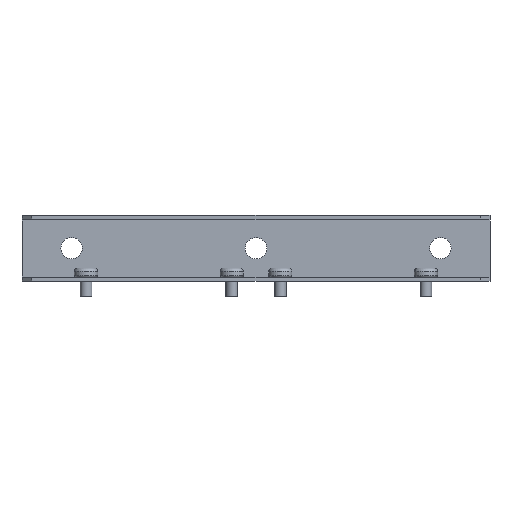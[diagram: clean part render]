
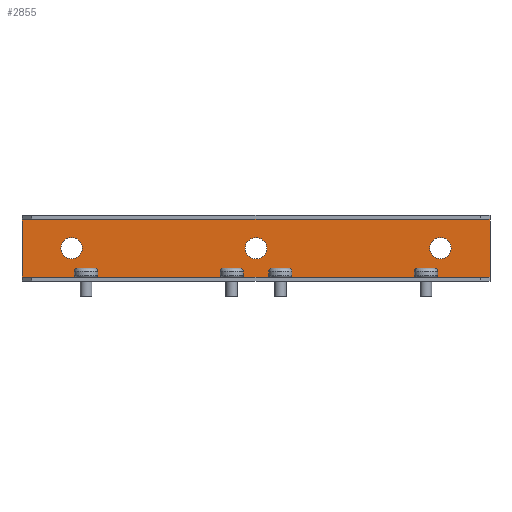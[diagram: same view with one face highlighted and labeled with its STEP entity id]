
A CAD part, left-side view. The second image highlights one B-rep face of the part: STEP entity #2855.
In plain terms, the highlighted planar face has unit normal (-1, 0, 0).
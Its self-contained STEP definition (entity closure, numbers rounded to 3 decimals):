
#3 = VECTOR ( 'NONE', #2722, 1000. ) ;
#6 = CIRCLE ( 'NONE', #1077, 5.5 ) ;
#136 = LINE ( 'NONE', #3295, #1947 ) ;
#137 = CARTESIAN_POINT ( 'NONE',  ( 13.5, -25., -5.5 ) ) ;
#220 = DIRECTION ( 'NONE',  ( 0., 0., 1. ) ) ;
#421 = EDGE_CURVE ( 'NONE', #1705, #2696, #2245, .T. ) ;
#466 = CARTESIAN_POINT ( 'NONE',  ( 13.5, -145.5, -15. ) ) ;
#486 = DIRECTION ( 'NONE',  ( 0., 0., -1. ) ) ;
#490 = ORIENTED_EDGE ( 'NONE', *, *, #3484, .T. ) ;
#492 = VECTOR ( 'NONE', #2016, 1000. ) ;
#498 = LINE ( 'NONE', #3642, #2316 ) ;
#513 = EDGE_LOOP ( 'NONE', ( #2091, #2648 ) ) ;
#523 = LINE ( 'NONE', #842, #492 ) ;
#557 = PLANE ( 'NONE',  #2733 ) ;
#594 = EDGE_CURVE ( 'NONE', #3029, #2981, #1835, .T. ) ;
#648 = ORIENTED_EDGE ( 'NONE', *, *, #737, .F. ) ;
#656 = DIRECTION ( 'NONE',  ( -1., 0., 0. ) ) ;
#737 = EDGE_CURVE ( 'NONE', #3029, #1766, #3282, .T. ) ;
#746 = CARTESIAN_POINT ( 'NONE',  ( 13.5, 70., -5.5 ) ) ;
#842 = CARTESIAN_POINT ( 'NONE',  ( 13.5, 0., 15. ) ) ;
#851 = EDGE_LOOP ( 'NONE', ( #1581, #1774 ) ) ;
#893 = DIRECTION ( 'NONE',  ( 0., 0., 1. ) ) ;
#944 = CIRCLE ( 'NONE', #2720, 5.5 ) ;
#950 = CARTESIAN_POINT ( 'NONE',  ( 13.5, 95.5, 14. ) ) ;
#1026 = ORIENTED_EDGE ( 'NONE', *, *, #1973, .F. ) ;
#1064 = VECTOR ( 'NONE', #1638, 1000. ) ;
#1077 = AXIS2_PLACEMENT_3D ( 'NONE', #2955, #1878, #220 ) ;
#1091 = EDGE_CURVE ( 'NONE', #1766, #2932, #136, .T. ) ;
#1093 = VECTOR ( 'NONE', #486, 1000. ) ;
#1114 = DIRECTION ( 'NONE',  ( 0., 0., -1. ) ) ;
#1119 = CARTESIAN_POINT ( 'NONE',  ( 13.5, -120., 0. ) ) ;
#1140 = AXIS2_PLACEMENT_3D ( 'NONE', #2289, #1988, #3629 ) ;
#1249 = ORIENTED_EDGE ( 'NONE', *, *, #1628, .F. ) ;
#1261 = EDGE_CURVE ( 'NONE', #3099, #2631, #3209, .T. ) ;
#1263 = CIRCLE ( 'NONE', #1140, 5.5 ) ;
#1274 = CARTESIAN_POINT ( 'NONE',  ( 13.5, -120., -5.5 ) ) ;
#1286 = DIRECTION ( 'NONE',  ( 0., 0., -1. ) ) ;
#1374 = LINE ( 'NONE', #3339, #1064 ) ;
#1437 = FACE_OUTER_BOUND ( 'NONE', #2901, .T. ) ;
#1562 = CARTESIAN_POINT ( 'NONE',  ( 13.5, -25., 5.5 ) ) ;
#1572 = VECTOR ( 'NONE', #3414, 1000. ) ;
#1581 = ORIENTED_EDGE ( 'NONE', *, *, #2677, .F. ) ;
#1608 = AXIS2_PLACEMENT_3D ( 'NONE', #1119, #2841, #1722 ) ;
#1621 = VECTOR ( 'NONE', #1286, 1000. ) ;
#1628 = EDGE_CURVE ( 'NONE', #2846, #1782, #498, .T. ) ;
#1638 = DIRECTION ( 'NONE',  ( 0., 1., 0. ) ) ;
#1695 = CARTESIAN_POINT ( 'NONE',  ( 13.5, 95.5, 15. ) ) ;
#1705 = VERTEX_POINT ( 'NONE', #2290 ) ;
#1722 = DIRECTION ( 'NONE',  ( 0., 0., 1. ) ) ;
#1740 = AXIS2_PLACEMENT_3D ( 'NONE', #3201, #656, #2048 ) ;
#1766 = VERTEX_POINT ( 'NONE', #950 ) ;
#1774 = ORIENTED_EDGE ( 'NONE', *, *, #2950, .F. ) ;
#1782 = VERTEX_POINT ( 'NONE', #3490 ) ;
#1784 = CARTESIAN_POINT ( 'NONE',  ( 13.5, 95.5, -14. ) ) ;
#1835 = LINE ( 'NONE', #1784, #1621 ) ;
#1844 = CARTESIAN_POINT ( 'NONE',  ( 13.5, 70., 5.5 ) ) ;
#1878 = DIRECTION ( 'NONE',  ( -1., 0., 0. ) ) ;
#1934 = CARTESIAN_POINT ( 'NONE',  ( 13.5, -145.5, -14. ) ) ;
#1947 = VECTOR ( 'NONE', #2165, 1000. ) ;
#1973 = EDGE_CURVE ( 'NONE', #1782, #2981, #1374, .T. ) ;
#1988 = DIRECTION ( 'NONE',  ( -1., 0., 0. ) ) ;
#2016 = DIRECTION ( 'NONE',  ( 0., 1., 0. ) ) ;
#2048 = DIRECTION ( 'NONE',  ( 0., 0., 1. ) ) ;
#2071 = CARTESIAN_POINT ( 'NONE',  ( 13.5, 95.5, -15. ) ) ;
#2091 = ORIENTED_EDGE ( 'NONE', *, *, #2098, .F. ) ;
#2095 = DIRECTION ( 'NONE',  ( 0., 0., 1. ) ) ;
#2098 = EDGE_CURVE ( 'NONE', #2103, #2208, #944, .T. ) ;
#2103 = VERTEX_POINT ( 'NONE', #137 ) ;
#2150 = CARTESIAN_POINT ( 'NONE',  ( 13.5, 95.5, 13. ) ) ;
#2165 = DIRECTION ( 'NONE',  ( 0., 0., 1. ) ) ;
#2208 = VERTEX_POINT ( 'NONE', #1562 ) ;
#2245 = LINE ( 'NONE', #3429, #1572 ) ;
#2289 = CARTESIAN_POINT ( 'NONE',  ( 13.5, -25., 0. ) ) ;
#2290 = CARTESIAN_POINT ( 'NONE',  ( 13.5, -145.5, 14. ) ) ;
#2316 = VECTOR ( 'NONE', #1114, 1000. ) ;
#2532 = ORIENTED_EDGE ( 'NONE', *, *, #1091, .F. ) ;
#2591 = EDGE_CURVE ( 'NONE', #2631, #3099, #2914, .T. ) ;
#2624 = CARTESIAN_POINT ( 'NONE',  ( 13.5, 95.5, -14. ) ) ;
#2631 = VERTEX_POINT ( 'NONE', #1274 ) ;
#2648 = ORIENTED_EDGE ( 'NONE', *, *, #2864, .F. ) ;
#2677 = EDGE_CURVE ( 'NONE', #2777, #2760, #6, .T. ) ;
#2696 = VERTEX_POINT ( 'NONE', #2715 ) ;
#2715 = CARTESIAN_POINT ( 'NONE',  ( 13.5, -145.5, 15. ) ) ;
#2720 = AXIS2_PLACEMENT_3D ( 'NONE', #3320, #2876, #893 ) ;
#2722 = DIRECTION ( 'NONE',  ( 0., 0., 1. ) ) ;
#2733 = AXIS2_PLACEMENT_3D ( 'NONE', #3398, #3644, #2837 ) ;
#2760 = VERTEX_POINT ( 'NONE', #1844 ) ;
#2777 = VERTEX_POINT ( 'NONE', #746 ) ;
#2789 = ORIENTED_EDGE ( 'NONE', *, *, #3357, .F. ) ;
#2791 = ORIENTED_EDGE ( 'NONE', *, *, #421, .T. ) ;
#2837 = DIRECTION ( 'NONE',  ( 0., 1., 0. ) ) ;
#2840 = ORIENTED_EDGE ( 'NONE', *, *, #2591, .F. ) ;
#2841 = DIRECTION ( 'NONE',  ( -1., 0., 0. ) ) ;
#2846 = VERTEX_POINT ( 'NONE', #1934 ) ;
#2855 = ADVANCED_FACE ( 'NONE', ( #2858, #3061, #3343, #1437 ), #557, .T. ) ;
#2858 = FACE_BOUND ( 'NONE', #3326, .T. ) ;
#2864 = EDGE_CURVE ( 'NONE', #2208, #2103, #1263, .T. ) ;
#2876 = DIRECTION ( 'NONE',  ( -1., 0., 0. ) ) ;
#2884 = DIRECTION ( 'NONE',  ( -1., 0., 0. ) ) ;
#2901 = EDGE_LOOP ( 'NONE', ( #648, #3089, #1026, #1249, #2789, #2791, #490, #2532 ) ) ;
#2914 = CIRCLE ( 'NONE', #3445, 5.5 ) ;
#2932 = VERTEX_POINT ( 'NONE', #1695 ) ;
#2950 = EDGE_CURVE ( 'NONE', #2760, #2777, #3218, .T. ) ;
#2955 = CARTESIAN_POINT ( 'NONE',  ( 13.5, 70., 0. ) ) ;
#2981 = VERTEX_POINT ( 'NONE', #2071 ) ;
#3014 = LINE ( 'NONE', #466, #1093 ) ;
#3029 = VERTEX_POINT ( 'NONE', #2624 ) ;
#3061 = FACE_BOUND ( 'NONE', #851, .T. ) ;
#3089 = ORIENTED_EDGE ( 'NONE', *, *, #594, .T. ) ;
#3099 = VERTEX_POINT ( 'NONE', #3428 ) ;
#3201 = CARTESIAN_POINT ( 'NONE',  ( 13.5, 70., 0. ) ) ;
#3209 = CIRCLE ( 'NONE', #1608, 5.5 ) ;
#3218 = CIRCLE ( 'NONE', #1740, 5.5 ) ;
#3251 = ORIENTED_EDGE ( 'NONE', *, *, #1261, .F. ) ;
#3282 = LINE ( 'NONE', #2150, #3 ) ;
#3295 = CARTESIAN_POINT ( 'NONE',  ( 13.5, 95.5, 0. ) ) ;
#3320 = CARTESIAN_POINT ( 'NONE',  ( 13.5, -25., 0. ) ) ;
#3326 = EDGE_LOOP ( 'NONE', ( #2840, #3251 ) ) ;
#3339 = CARTESIAN_POINT ( 'NONE',  ( 13.5, 0., -15. ) ) ;
#3343 = FACE_BOUND ( 'NONE', #513, .T. ) ;
#3357 = EDGE_CURVE ( 'NONE', #1705, #2846, #3014, .T. ) ;
#3398 = CARTESIAN_POINT ( 'NONE',  ( 13.5, 0., 0. ) ) ;
#3414 = DIRECTION ( 'NONE',  ( 0., 0., 1. ) ) ;
#3428 = CARTESIAN_POINT ( 'NONE',  ( 13.5, -120., 5.5 ) ) ;
#3429 = CARTESIAN_POINT ( 'NONE',  ( 13.5, -145.5, 14. ) ) ;
#3445 = AXIS2_PLACEMENT_3D ( 'NONE', #3480, #2884, #2095 ) ;
#3480 = CARTESIAN_POINT ( 'NONE',  ( 13.5, -120., 0. ) ) ;
#3484 = EDGE_CURVE ( 'NONE', #2696, #2932, #523, .T. ) ;
#3490 = CARTESIAN_POINT ( 'NONE',  ( 13.5, -145.5, -15. ) ) ;
#3629 = DIRECTION ( 'NONE',  ( 0., 0., 1. ) ) ;
#3642 = CARTESIAN_POINT ( 'NONE',  ( 13.5, -145.5, 0. ) ) ;
#3644 = DIRECTION ( 'NONE',  ( -1., 0., 0. ) ) ;
